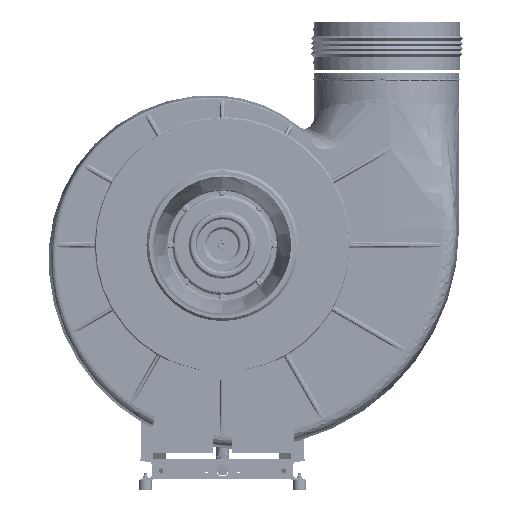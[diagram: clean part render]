
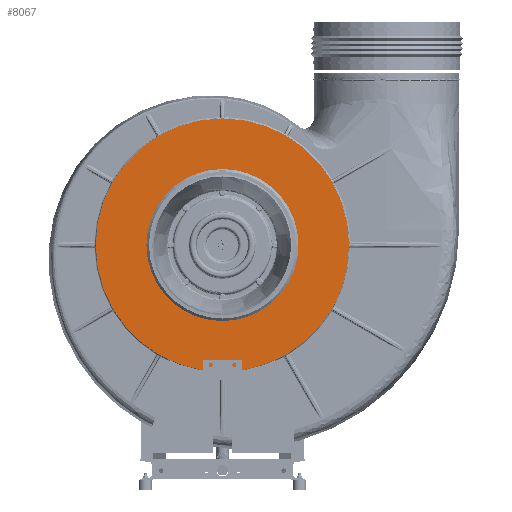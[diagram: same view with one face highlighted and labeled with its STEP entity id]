
A CAD part, front view. The second image highlights one B-rep face of the part: STEP entity #8067.
In plain terms, the highlighted planar face has unit normal (0, -1, 0).
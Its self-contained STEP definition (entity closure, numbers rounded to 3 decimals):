
#8067 = ADVANCED_FACE( '', ( #16895, #16896 ), #16897, .F. );
#16895 = FACE_OUTER_BOUND( '', #54837, .T. );
#16896 = FACE_BOUND( '', #54838, .T. );
#16897 = PLANE( '', #54839 );
#54837 = EDGE_LOOP( '', ( #92517 ) );
#54838 = EDGE_LOOP( '', ( #92518 ) );
#54839 = AXIS2_PLACEMENT_3D( '', #92519, #92520, #92521 );
#92517 = ORIENTED_EDGE( '', *, *, #106062, .T. );
#92518 = ORIENTED_EDGE( '', *, *, #106063, .T. );
#92519 = CARTESIAN_POINT( '', ( 0., 0., 0. ) );
#92520 = DIRECTION( '', ( 0., 1., 0. ) );
#92521 = DIRECTION( '', ( 0., 0., 1. ) );
#106062 = EDGE_CURVE( '', #117340, #117340, #117341, .F. );
#106063 = EDGE_CURVE( '', #117342, #117342, #117343, .T. );
#117340 = VERTEX_POINT( '', #151570 );
#117341 = CIRCLE( '', #151571, 393. );
#117342 = VERTEX_POINT( '', #151572 );
#117343 = CIRCLE( '', #151573, 225.25 );
#151570 = CARTESIAN_POINT( '', ( 0., 0., 393. ) );
#151571 = AXIS2_PLACEMENT_3D( '', #163298, #163299, #163300 );
#151572 = CARTESIAN_POINT( '', ( 225.25, 0., 0. ) );
#151573 = AXIS2_PLACEMENT_3D( '', #163301, #163302, #163303 );
#163298 = CARTESIAN_POINT( '', ( 0., 0., 0. ) );
#163299 = DIRECTION( '', ( 0., 1., 0. ) );
#163300 = DIRECTION( '', ( 0., 0., 1. ) );
#163301 = CARTESIAN_POINT( '', ( 0., 0., 0. ) );
#163302 = DIRECTION( '', ( 0., 1., 0. ) );
#163303 = DIRECTION( '', ( 1., 0., 0. ) );
